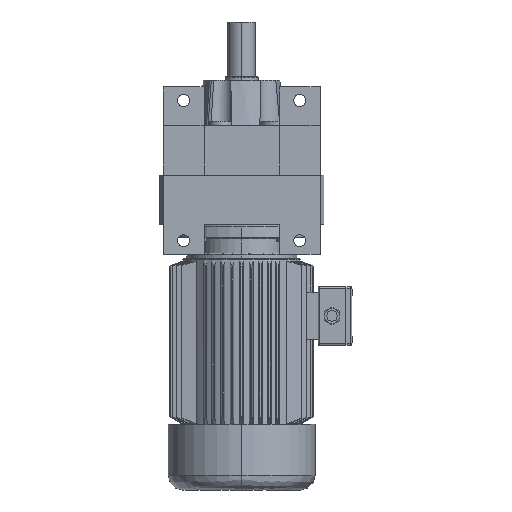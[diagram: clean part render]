
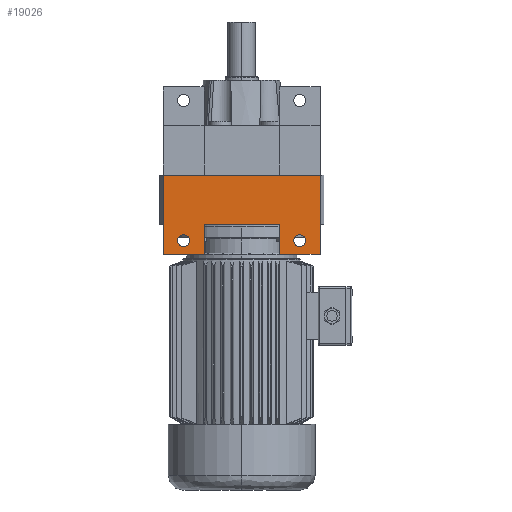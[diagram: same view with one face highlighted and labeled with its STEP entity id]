
A CAD part, front view. The second image highlights one B-rep face of the part: STEP entity #19026.
In plain terms, the highlighted planar face has unit normal (0, -1, 0).
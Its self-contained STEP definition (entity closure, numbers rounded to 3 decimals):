
#63 = AXIS2_PLACEMENT_3D ( 'NONE', #7425, #6980, #18385 ) ;
#562 = DIRECTION ( 'NONE',  ( 1., 0., 0. ) ) ;
#592 = EDGE_CURVE ( 'NONE', #38630, #4731, #45885, .T. ) ;
#601 = VERTEX_POINT ( 'NONE', #39948 ) ;
#740 = EDGE_LOOP ( 'NONE', ( #9828, #35136 ) ) ;
#877 = VERTEX_POINT ( 'NONE', #29583 ) ;
#1126 = EDGE_CURVE ( 'NONE', #44543, #43110, #31811, .T. ) ;
#1313 = FACE_BOUND ( 'NONE', #16728, .T. ) ;
#1486 = DIRECTION ( 'NONE',  ( 0., 0., 1. ) ) ;
#2272 = VECTOR ( 'NONE', #12097, 1000. ) ;
#2701 = CARTESIAN_POINT ( 'NONE',  ( 85., -140., -32.75 ) ) ;
#2792 = EDGE_CURVE ( 'NONE', #35935, #8442, #22484, .T. ) ;
#2977 = ORIENTED_EDGE ( 'NONE', *, *, #2792, .F. ) ;
#3003 = FACE_OUTER_BOUND ( 'NONE', #9727, .T. ) ;
#3764 = CARTESIAN_POINT ( 'NONE',  ( 85., -140., -24. ) ) ;
#4471 = DIRECTION ( 'NONE',  ( 0., 0., 1. ) ) ;
#4472 = LINE ( 'NONE', #32437, #32545 ) ;
#4731 = VERTEX_POINT ( 'NONE', #45003 ) ;
#5155 = DIRECTION ( 'NONE',  ( -1., 0., 0. ) ) ;
#5898 = ORIENTED_EDGE ( 'NONE', *, *, #35760, .F. ) ;
#6041 = CARTESIAN_POINT ( 'NONE',  ( 115., -140., 72. ) ) ;
#6247 = DIRECTION ( 'NONE',  ( 0., 0., 1. ) ) ;
#6980 = DIRECTION ( 'NONE',  ( 0., 1., 0. ) ) ;
#7425 = CARTESIAN_POINT ( 'NONE',  ( 96.4, -140., 72. ) ) ;
#7493 = VERTEX_POINT ( 'NONE', #24574 ) ;
#8430 = CARTESIAN_POINT ( 'NONE',  ( 55., -140., -44. ) ) ;
#8442 = VERTEX_POINT ( 'NONE', #35008 ) ;
#9067 = EDGE_CURVE ( 'NONE', #28018, #44543, #38212, .T. ) ;
#9220 = EDGE_CURVE ( 'NONE', #7493, #601, #31413, .T. ) ;
#9727 = EDGE_LOOP ( 'NONE', ( #5898, #19343, #16572, #15920, #27262, #28672, #27416, #2977 ) ) ;
#9828 = ORIENTED_EDGE ( 'NONE', *, *, #9220, .F. ) ;
#10593 = EDGE_CURVE ( 'NONE', #8442, #28018, #4472, .T. ) ;
#10708 = DIRECTION ( 'NONE',  ( -1., 0., 0. ) ) ;
#11260 = DIRECTION ( 'NONE',  ( 0., 0., -1. ) ) ;
#11879 = LINE ( 'NONE', #44387, #32058 ) ;
#12097 = DIRECTION ( 'NONE',  ( 0., 0., 1. ) ) ;
#12195 = CARTESIAN_POINT ( 'NONE',  ( -85., -140., -24. ) ) ;
#12728 = EDGE_CURVE ( 'NONE', #33383, #877, #13545, .T. ) ;
#12745 = VECTOR ( 'NONE', #35194, 1000. ) ;
#13545 = LINE ( 'NONE', #34858, #44958 ) ;
#15777 = CARTESIAN_POINT ( 'NONE',  ( 85., -140., -24. ) ) ;
#15920 = ORIENTED_EDGE ( 'NONE', *, *, #39771, .T. ) ;
#16572 = ORIENTED_EDGE ( 'NONE', *, *, #17593, .F. ) ;
#16728 = EDGE_LOOP ( 'NONE', ( #24971, #18291 ) ) ;
#16910 = VECTOR ( 'NONE', #11260, 1000. ) ;
#17593 = EDGE_CURVE ( 'NONE', #44720, #33383, #11879, .T. ) ;
#17697 = DIRECTION ( 'NONE',  ( 0., -1., 0. ) ) ;
#18291 = ORIENTED_EDGE ( 'NONE', *, *, #592, .F. ) ;
#18385 = DIRECTION ( 'NONE',  ( -1., 0., 0. ) ) ;
#19026 = ADVANCED_FACE ( 'NONE', ( #3003, #1313, #36157 ), #28882, .F. ) ;
#19343 = ORIENTED_EDGE ( 'NONE', *, *, #12728, .F. ) ;
#19378 = DIRECTION ( 'NONE',  ( 0., -1., 0. ) ) ;
#20723 = CARTESIAN_POINT ( 'NONE',  ( 53.77, -140., 0. ) ) ;
#21752 = DIRECTION ( 'NONE',  ( 0., 0., 1. ) ) ;
#22413 = AXIS2_PLACEMENT_3D ( 'NONE', #30710, #17697, #6247 ) ;
#22484 = LINE ( 'NONE', #40187, #16910 ) ;
#22864 = CIRCLE ( 'NONE', #34885, 8.75 ) ;
#24148 = DIRECTION ( 'NONE',  ( 0., 0., 1. ) ) ;
#24574 = CARTESIAN_POINT ( 'NONE',  ( -85., -140., -15.25 ) ) ;
#24971 = ORIENTED_EDGE ( 'NONE', *, *, #35812, .F. ) ;
#27262 = ORIENTED_EDGE ( 'NONE', *, *, #1126, .F. ) ;
#27416 = ORIENTED_EDGE ( 'NONE', *, *, #10593, .F. ) ;
#27442 = CARTESIAN_POINT ( 'NONE',  ( 55., -140., 0. ) ) ;
#28018 = VERTEX_POINT ( 'NONE', #8430 ) ;
#28236 = CARTESIAN_POINT ( 'NONE',  ( -55., -140., -44. ) ) ;
#28672 = ORIENTED_EDGE ( 'NONE', *, *, #9067, .F. ) ;
#28882 = PLANE ( 'NONE',  #63 ) ;
#29431 = DIRECTION ( 'NONE',  ( 0., -1., 0. ) ) ;
#29583 = CARTESIAN_POINT ( 'NONE',  ( -115., -140., 72. ) ) ;
#30710 = CARTESIAN_POINT ( 'NONE',  ( -85., -140., -24. ) ) ;
#31413 = CIRCLE ( 'NONE', #32560, 8.75 ) ;
#31811 = LINE ( 'NONE', #20723, #12745 ) ;
#32058 = VECTOR ( 'NONE', #5155, 1000. ) ;
#32070 = AXIS2_PLACEMENT_3D ( 'NONE', #3764, #36096, #21752 ) ;
#32437 = CARTESIAN_POINT ( 'NONE',  ( 96.4, -140., -44. ) ) ;
#32545 = VECTOR ( 'NONE', #10708, 1000. ) ;
#32560 = AXIS2_PLACEMENT_3D ( 'NONE', #12195, #29431, #4471 ) ;
#32688 = CARTESIAN_POINT ( 'NONE',  ( -55., -140., 201. ) ) ;
#33046 = EDGE_CURVE ( 'NONE', #601, #7493, #41800, .T. ) ;
#33383 = VERTEX_POINT ( 'NONE', #34432 ) ;
#34432 = CARTESIAN_POINT ( 'NONE',  ( -115., -140., -44. ) ) ;
#34858 = CARTESIAN_POINT ( 'NONE',  ( -115., -140., 72. ) ) ;
#34885 = AXIS2_PLACEMENT_3D ( 'NONE', #15777, #19378, #1486 ) ;
#34975 = VECTOR ( 'NONE', #39864, 1000. ) ;
#35008 = CARTESIAN_POINT ( 'NONE',  ( 115., -140., -44. ) ) ;
#35136 = ORIENTED_EDGE ( 'NONE', *, *, #33046, .F. ) ;
#35194 = DIRECTION ( 'NONE',  ( -1., 0., 0. ) ) ;
#35760 = EDGE_CURVE ( 'NONE', #877, #35935, #37546, .T. ) ;
#35812 = EDGE_CURVE ( 'NONE', #4731, #38630, #22864, .T. ) ;
#35935 = VERTEX_POINT ( 'NONE', #6041 ) ;
#36096 = DIRECTION ( 'NONE',  ( 0., -1., 0. ) ) ;
#36157 = FACE_BOUND ( 'NONE', #740, .T. ) ;
#36822 = CARTESIAN_POINT ( 'NONE',  ( 96.4, -140., 72. ) ) ;
#37186 = CARTESIAN_POINT ( 'NONE',  ( 55., -140., 72. ) ) ;
#37546 = LINE ( 'NONE', #36822, #40300 ) ;
#37665 = CARTESIAN_POINT ( 'NONE',  ( -55., -140., 0. ) ) ;
#38212 = LINE ( 'NONE', #37186, #2272 ) ;
#38630 = VERTEX_POINT ( 'NONE', #2701 ) ;
#39771 = EDGE_CURVE ( 'NONE', #44720, #43110, #44488, .T. ) ;
#39864 = DIRECTION ( 'NONE',  ( 0., 0., 1. ) ) ;
#39948 = CARTESIAN_POINT ( 'NONE',  ( -85., -140., -32.75 ) ) ;
#40187 = CARTESIAN_POINT ( 'NONE',  ( 115., -140., 72. ) ) ;
#40300 = VECTOR ( 'NONE', #562, 1000. ) ;
#41800 = CIRCLE ( 'NONE', #22413, 8.75 ) ;
#43110 = VERTEX_POINT ( 'NONE', #37665 ) ;
#44387 = CARTESIAN_POINT ( 'NONE',  ( 96.4, -140., -44. ) ) ;
#44488 = LINE ( 'NONE', #32688, #34975 ) ;
#44543 = VERTEX_POINT ( 'NONE', #27442 ) ;
#44720 = VERTEX_POINT ( 'NONE', #28236 ) ;
#44958 = VECTOR ( 'NONE', #24148, 1000. ) ;
#45003 = CARTESIAN_POINT ( 'NONE',  ( 85., -140., -15.25 ) ) ;
#45885 = CIRCLE ( 'NONE', #32070, 8.75 ) ;
